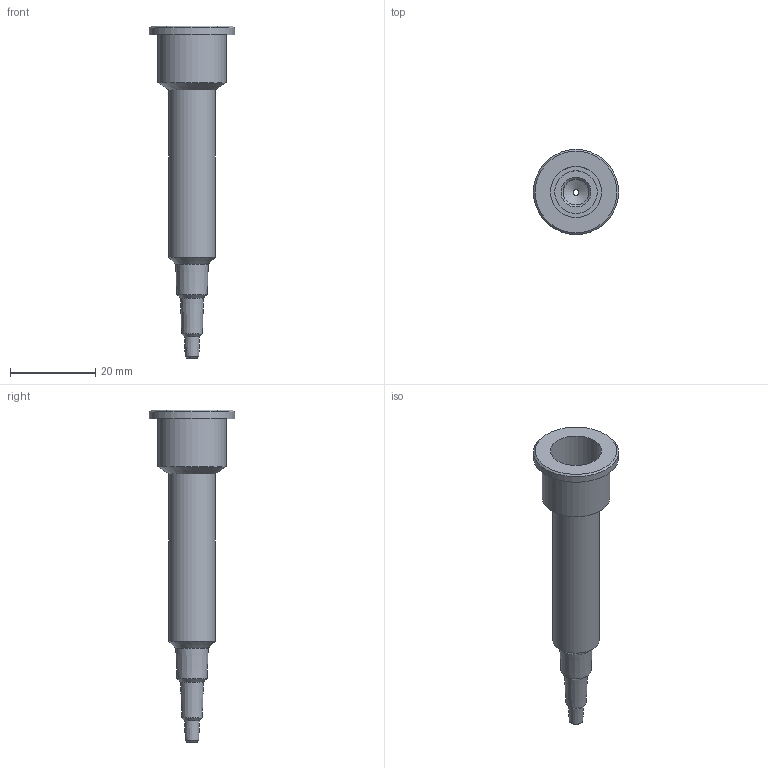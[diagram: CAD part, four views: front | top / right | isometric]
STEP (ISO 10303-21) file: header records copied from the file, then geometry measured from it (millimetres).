
FILE_DESCRIPTION(('FreeCAD Model'),'2;1');
FILE_NAME('Open CASCADE Shape Model','2024-11-07T10:16:47',(''),(''), 'Open CASCADE STEP processor 7.8','FreeCAD','Unknown');
FILE_SCHEMA(('AUTOMOTIVE_DESIGN { 1 0 10303 214 1 1 1 1 }'));
Length unit declared in the file: millimetre
Products named in the file (1): PZ0101-COMBINED-V02
Bounding box: 20 x 20 x 78 mm (x, y, z)
Volume: 5109.3 mm3; surface area: 4361 mm2
Topology: 1 solids, 1 shells, 23 faces, 41 edges, 23 vertices
Faces by surface type: cone 11, cylinder 7, plane 5
Full cylindrical faces by diameter (mm): 1.4 x1, 6.01 x1, 10 x1, 11 x1, 12 x1, 16 x1, 20 x1
Entity records: 1115 total; most frequent: DIRECTION 194, CARTESIAN_POINT 170, LINE 90, VECTOR 90, ORIENTED_EDGE 82, PCURVE 82, DEFINITIONAL_REPRESENTATION 82, AXIS2_PLACEMENT_3D 47
